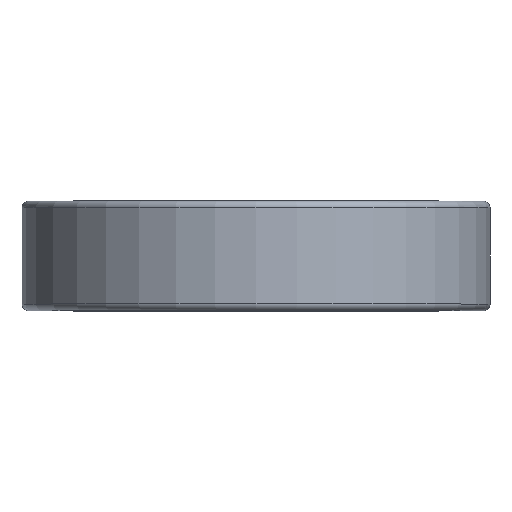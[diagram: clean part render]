
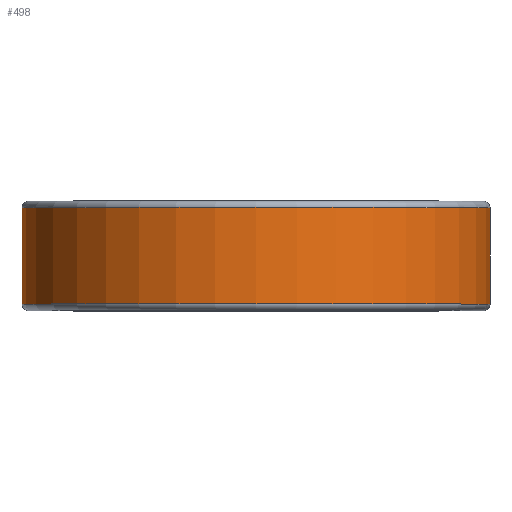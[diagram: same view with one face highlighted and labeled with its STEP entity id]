
A CAD part, top view. The second image highlights one B-rep face of the part: STEP entity #498.
In plain terms, the highlighted cylindrical face has radius 23.5 mm (diameter 47 mm), a full revolution.
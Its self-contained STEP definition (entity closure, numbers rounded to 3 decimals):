
#161=CYLINDRICAL_SURFACE('',#541,23.5);
#176=FACE_BOUND('',#243,.T.);
#206=FACE_OUTER_BOUND('',#242,.T.);
#242=EDGE_LOOP('',(#397));
#243=EDGE_LOOP('',(#398));
#301=CIRCLE('',#540,23.5);
#302=CIRCLE('',#542,23.5);
#332=VERTEX_POINT('',#842);
#333=VERTEX_POINT('',#845);
#363=EDGE_CURVE('',#332,#332,#301,.T.);
#364=EDGE_CURVE('',#333,#333,#302,.T.);
#397=ORIENTED_EDGE('',*,*,#364,.F.);
#398=ORIENTED_EDGE('',*,*,#363,.F.);
#498=ADVANCED_FACE('',(#206,#176),#161,.T.);
#540=AXIS2_PLACEMENT_3D('',#843,#649,#650);
#541=AXIS2_PLACEMENT_3D('',#844,#651,#652);
#542=AXIS2_PLACEMENT_3D('',#846,#653,#654);
#649=DIRECTION('center_axis',(0.,-1.,0.));
#650=DIRECTION('ref_axis',(0.,0.,-1.));
#651=DIRECTION('center_axis',(0.,1.,0.));
#652=DIRECTION('ref_axis',(0.,0.,1.));
#653=DIRECTION('center_axis',(0.,1.,0.));
#654=DIRECTION('ref_axis',(0.,0.,-1.));
#842=CARTESIAN_POINT('',(0.,-10.34,23.5));
#843=CARTESIAN_POINT('Origin',(0.,-10.34,0.));
#844=CARTESIAN_POINT('Origin',(0.,-5.5,0.));
#845=CARTESIAN_POINT('',(0.,-0.66,23.5));
#846=CARTESIAN_POINT('Origin',(0.,-0.66,0.));
